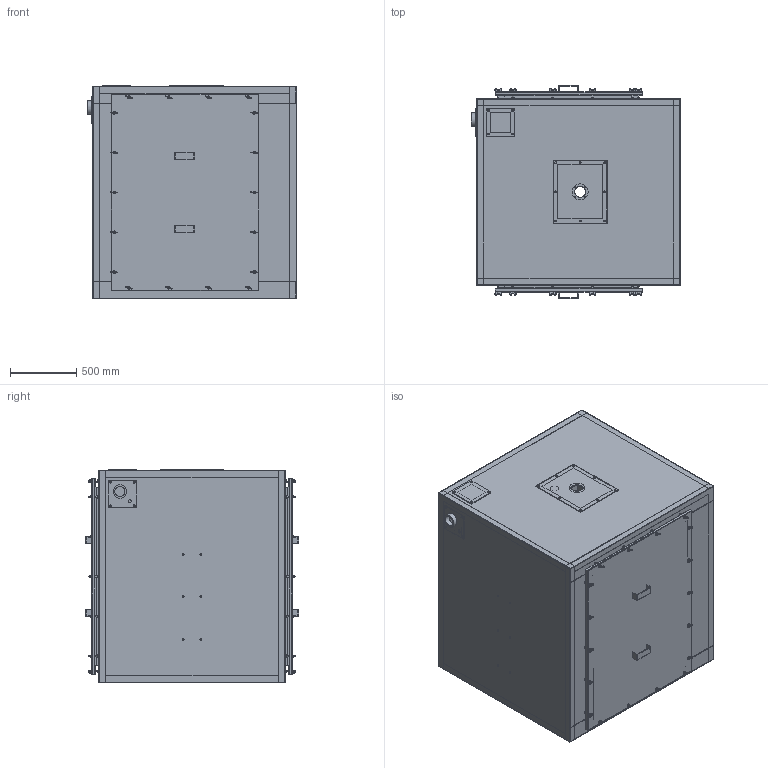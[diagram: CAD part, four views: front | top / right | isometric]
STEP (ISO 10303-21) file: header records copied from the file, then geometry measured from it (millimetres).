
FILE_DESCRIPTION(/* description */ (''),/* implementation_level */ '2;1');
FILE_NAME(/* name */ 'C:\Users\vlakrc01\Desktop\STP\01DEC\67703.stp',/* time_stamp */ '2017-12-01T10:12:51+01:00',/* author */ ('vlakrc01'),/* organization */ ('Hillmar Industries Ltd.'),/* preprocessor_version */ 'ST-DEVELOPER v16.1',/* originating_system */ 'Autodesk Inventor 2016',/* authorisation */ '');
FILE_SCHEMA (('AUTOMOTIVE_DESIGN { 1 0 10303 214 3 1 1 }'));
Products named in the file (1): 67703 ENP-20KV4-304 ENCLOSURE_Shrinkwrap_1
Bounding box: 1577.07 x 1606.6 x 1610.13 mm (x, y, z)
Volume: 37074607.6 mm3; surface area: 34625515.5 mm2
Topology: 4 solids, 10 shells, 2132 faces, 5317 edges, 3359 vertices
Faces by surface type: plane 1380, cylinder 376, cone 376
Full cylindrical faces by diameter (mm): 7 x4, 8.376 x8, 9 x4, 9.188 x28, 10 x56, 13 x22, 14 x8, 14.3 x8, 14.5 x8, 15.4 x28, 22.225 x1, 63.5 x1, 76.2 x1, 80 x2, 82 x1, 101.6 x1, 102 x1, 118.3 x1, 120 x2, 254 x1
Entity records: 62541 total; most frequent: CARTESIAN_POINT 11729, DIRECTION 9974, ORIENTED_EDGE 9900, EDGE_CURVE 4944, AXIS2_PLACEMENT_3D 3529, VERTEX_POINT 3236, LINE 2916, VECTOR 2916
